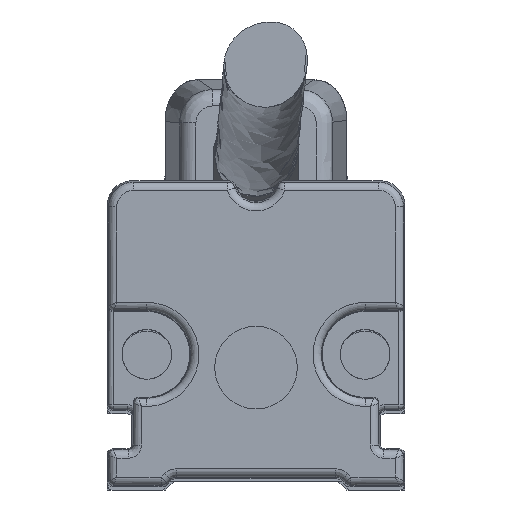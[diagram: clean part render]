
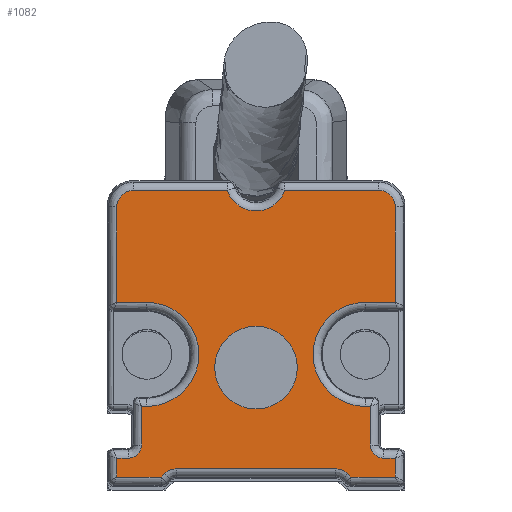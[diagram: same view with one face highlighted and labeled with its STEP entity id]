
A CAD part, front view. The second image highlights one B-rep face of the part: STEP entity #1082.
In plain terms, the highlighted planar face has unit normal (0, -1, 0).
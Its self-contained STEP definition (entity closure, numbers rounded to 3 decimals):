
#195=B_SPLINE_CURVE_WITH_KNOTS('',3,(#17121,#17122,#17123,#17124),
 .UNSPECIFIED.,.F.,.F.,(4,4),(0.,1.),.UNSPECIFIED.);
#196=B_SPLINE_CURVE_WITH_KNOTS('',3,(#17132,#17133,#17134,#17135),
 .UNSPECIFIED.,.F.,.F.,(4,4),(0.,1.),.UNSPECIFIED.);
#526=PLANE('',#10790);
#682=FACE_BOUND('',#2384,.T.);
#683=FACE_BOUND('',#2385,.T.);
#1082=ADVANCED_FACE('',(#682,#683),#526,.T.);
#2384=EDGE_LOOP('',(#6547));
#2385=EDGE_LOOP('',(#6548,#6549,#6550,#6551,#6552,#6553,#6554,#6555,#6556,
#6557,#6558,#6559,#6560,#6561,#6562,#6563,#6564,#6565,#6566,#6567,#6568,
#6569,#6570,#6571,#6572,#6573,#6574,#6575));
#2638=ELLIPSE('',#10785,0.8,0.8);
#2639=ELLIPSE('',#10786,1.,1.);
#2640=ELLIPSE('',#10787,1.,1.);
#2641=ELLIPSE('',#10788,0.8,0.8);
#3385=LINE('',#17118,#4260);
#3386=LINE('',#17126,#4261);
#3387=LINE('',#17130,#4262);
#3388=LINE('',#17137,#4263);
#3389=LINE('',#17139,#4264);
#3390=LINE('',#17143,#4265);
#3391=LINE('',#17145,#4266);
#3392=LINE('',#17149,#4267);
#3393=LINE('',#17151,#4268);
#3394=LINE('',#17153,#4269);
#3395=LINE('',#17155,#4270);
#3396=LINE('',#17159,#4271);
#3397=LINE('',#17163,#4272);
#3398=LINE('',#17165,#4273);
#3399=LINE('',#17167,#4274);
#3400=LINE('',#17169,#4275);
#3401=LINE('',#17173,#4276);
#3402=LINE('',#17175,#4277);
#3403=LINE('',#17179,#4278);
#4260=VECTOR('',#13202,1.);
#4261=VECTOR('',#13203,1.);
#4262=VECTOR('',#13206,1.);
#4263=VECTOR('',#13207,1.);
#4264=VECTOR('',#13208,1.);
#4265=VECTOR('',#13211,1.);
#4266=VECTOR('',#13212,1.);
#4267=VECTOR('',#13215,1.);
#4268=VECTOR('',#13216,1.);
#4269=VECTOR('',#13217,1.);
#4270=VECTOR('',#13218,1.);
#4271=VECTOR('',#13221,1.);
#4272=VECTOR('',#13224,1.);
#4273=VECTOR('',#13225,1.);
#4274=VECTOR('',#13226,1.);
#4275=VECTOR('',#13227,1.);
#4276=VECTOR('',#13230,1.);
#4277=VECTOR('',#13231,1.);
#4278=VECTOR('',#13234,1.);
#6547=ORIENTED_EDGE('',*,*,#9396,.F.);
#6548=ORIENTED_EDGE('',*,*,#9397,.T.);
#6549=ORIENTED_EDGE('',*,*,#9398,.T.);
#6550=ORIENTED_EDGE('',*,*,#9399,.T.);
#6551=ORIENTED_EDGE('',*,*,#9400,.T.);
#6552=ORIENTED_EDGE('',*,*,#9401,.T.);
#6553=ORIENTED_EDGE('',*,*,#9402,.T.);
#6554=ORIENTED_EDGE('',*,*,#9403,.T.);
#6555=ORIENTED_EDGE('',*,*,#9404,.T.);
#6556=ORIENTED_EDGE('',*,*,#9405,.T.);
#6557=ORIENTED_EDGE('',*,*,#9406,.T.);
#6558=ORIENTED_EDGE('',*,*,#9407,.T.);
#6559=ORIENTED_EDGE('',*,*,#9408,.T.);
#6560=ORIENTED_EDGE('',*,*,#9409,.T.);
#6561=ORIENTED_EDGE('',*,*,#9410,.T.);
#6562=ORIENTED_EDGE('',*,*,#9411,.T.);
#6563=ORIENTED_EDGE('',*,*,#9412,.T.);
#6564=ORIENTED_EDGE('',*,*,#9413,.T.);
#6565=ORIENTED_EDGE('',*,*,#9414,.T.);
#6566=ORIENTED_EDGE('',*,*,#9415,.T.);
#6567=ORIENTED_EDGE('',*,*,#9416,.T.);
#6568=ORIENTED_EDGE('',*,*,#9417,.T.);
#6569=ORIENTED_EDGE('',*,*,#9418,.T.);
#6570=ORIENTED_EDGE('',*,*,#9419,.T.);
#6571=ORIENTED_EDGE('',*,*,#9420,.T.);
#6572=ORIENTED_EDGE('',*,*,#9421,.T.);
#6573=ORIENTED_EDGE('',*,*,#9422,.T.);
#6574=ORIENTED_EDGE('',*,*,#9423,.T.);
#6575=ORIENTED_EDGE('',*,*,#9424,.T.);
#8110=VERTEX_POINT('',#17117);
#8111=VERTEX_POINT('',#17119);
#8112=VERTEX_POINT('',#17120);
#8113=VERTEX_POINT('',#17125);
#8114=VERTEX_POINT('',#17127);
#8115=VERTEX_POINT('',#17129);
#8116=VERTEX_POINT('',#17131);
#8117=VERTEX_POINT('',#17136);
#8118=VERTEX_POINT('',#17138);
#8119=VERTEX_POINT('',#17140);
#8120=VERTEX_POINT('',#17142);
#8121=VERTEX_POINT('',#17144);
#8122=VERTEX_POINT('',#17146);
#8123=VERTEX_POINT('',#17148);
#8124=VERTEX_POINT('',#17150);
#8125=VERTEX_POINT('',#17152);
#8126=VERTEX_POINT('',#17154);
#8127=VERTEX_POINT('',#17156);
#8128=VERTEX_POINT('',#17158);
#8129=VERTEX_POINT('',#17160);
#8130=VERTEX_POINT('',#17162);
#8131=VERTEX_POINT('',#17164);
#8132=VERTEX_POINT('',#17166);
#8133=VERTEX_POINT('',#17168);
#8134=VERTEX_POINT('',#17170);
#8135=VERTEX_POINT('',#17172);
#8136=VERTEX_POINT('',#17174);
#8137=VERTEX_POINT('',#17176);
#8138=VERTEX_POINT('',#17178);
#9396=EDGE_CURVE('',#8110,#8110,#9984,.T.);
#9397=EDGE_CURVE('',#8111,#8112,#3385,.T.);
#9398=EDGE_CURVE('',#8112,#8113,#195,.T.);
#9399=EDGE_CURVE('',#8113,#8114,#3386,.T.);
#9400=EDGE_CURVE('',#8114,#8115,#9985,.T.);
#9401=EDGE_CURVE('',#8115,#8116,#3387,.T.);
#9402=EDGE_CURVE('',#8116,#8117,#196,.T.);
#9403=EDGE_CURVE('',#8117,#8118,#3388,.T.);
#9404=EDGE_CURVE('',#8118,#8119,#3389,.T.);
#9405=EDGE_CURVE('',#8119,#8120,#9986,.T.);
#9406=EDGE_CURVE('',#8120,#8121,#3390,.T.);
#9407=EDGE_CURVE('',#8121,#8122,#3391,.T.);
#9408=EDGE_CURVE('',#8122,#8123,#2638,.T.);
#9409=EDGE_CURVE('',#8123,#8124,#3392,.T.);
#9410=EDGE_CURVE('',#8124,#8125,#3393,.T.);
#9411=EDGE_CURVE('',#8125,#8126,#3394,.T.);
#9412=EDGE_CURVE('',#8126,#8127,#3395,.T.);
#9413=EDGE_CURVE('',#8127,#8128,#2639,.T.);
#9414=EDGE_CURVE('',#8128,#8129,#3396,.T.);
#9415=EDGE_CURVE('',#8129,#8130,#2640,.T.);
#9416=EDGE_CURVE('',#8130,#8131,#3397,.T.);
#9417=EDGE_CURVE('',#8131,#8132,#3398,.T.);
#9418=EDGE_CURVE('',#8132,#8133,#3399,.T.);
#9419=EDGE_CURVE('',#8133,#8134,#3400,.T.);
#9420=EDGE_CURVE('',#8134,#8135,#2641,.T.);
#9421=EDGE_CURVE('',#8135,#8136,#3401,.T.);
#9422=EDGE_CURVE('',#8136,#8137,#3402,.T.);
#9423=EDGE_CURVE('',#8137,#8138,#9987,.T.);
#9424=EDGE_CURVE('',#8138,#8111,#3403,.T.);
#9984=CIRCLE('',#10782,2.5);
#9985=CIRCLE('',#10783,1.829);
#9986=CIRCLE('',#10784,3.148);
#9987=CIRCLE('',#10789,3.148);
#10782=AXIS2_PLACEMENT_3D('',#17116,#13200,#13201);
#10783=AXIS2_PLACEMENT_3D('',#17128,#13204,#13205);
#10784=AXIS2_PLACEMENT_3D('',#17141,#13209,#13210);
#10785=AXIS2_PLACEMENT_3D('',#17147,#13213,#13214);
#10786=AXIS2_PLACEMENT_3D('',#17157,#13219,#13220);
#10787=AXIS2_PLACEMENT_3D('',#17161,#13222,#13223);
#10788=AXIS2_PLACEMENT_3D('',#17171,#13228,#13229);
#10789=AXIS2_PLACEMENT_3D('',#17177,#13232,#13233);
#10790=AXIS2_PLACEMENT_3D('',#17180,#13235,#13236);
#13200=DIRECTION('',(0.,-1.,0.));
#13201=DIRECTION('',(0.,0.,-1.));
#13202=DIRECTION('',(0.,0.,1.));
#13203=DIRECTION('',(-1.,0.,0.));
#13204=DIRECTION('',(0.,1.,0.));
#13205=DIRECTION('',(0.,0.,-1.));
#13206=DIRECTION('',(-1.,0.,0.));
#13207=DIRECTION('',(0.,0.,-1.));
#13208=DIRECTION('',(1.,0.,0.));
#13209=DIRECTION('',(0.,1.,0.));
#13210=DIRECTION('',(0.,0.,-1.));
#13211=DIRECTION('',(-1.,0.,0.));
#13212=DIRECTION('',(0.,0.,-1.));
#13213=DIRECTION('',(0.,1.,0.));
#13214=DIRECTION('',(-0.707,0.,0.707));
#13215=DIRECTION('',(-1.,0.,0.));
#13216=DIRECTION('',(0.,0.,-1.));
#13217=DIRECTION('',(1.,0.,0.));
#13218=DIRECTION('',(0.707,0.,0.707));
#13219=DIRECTION('',(0.,1.,0.));
#13220=DIRECTION('',(0.383,0.,-0.924));
#13221=DIRECTION('',(1.,0.,0.));
#13222=DIRECTION('',(0.,1.,0.));
#13223=DIRECTION('',(-0.383,0.,-0.924));
#13224=DIRECTION('',(0.707,0.,-0.707));
#13225=DIRECTION('',(1.,0.,0.));
#13226=DIRECTION('',(0.,0.,1.));
#13227=DIRECTION('',(-1.,0.,0.));
#13228=DIRECTION('',(0.,1.,0.));
#13229=DIRECTION('',(0.707,0.,0.707));
#13230=DIRECTION('',(0.,0.,1.));
#13231=DIRECTION('',(-1.,0.,0.));
#13232=DIRECTION('',(0.,1.,0.));
#13233=DIRECTION('',(0.,0.,-1.));
#13234=DIRECTION('',(1.,0.,0.));
#13235=DIRECTION('',(0.,-1.,0.));
#13236=DIRECTION('',(1.,0.,0.));
#17116=CARTESIAN_POINT('',(0.,-50.,106.9));
#17117=CARTESIAN_POINT('',(0.,-50.,104.4));
#17118=CARTESIAN_POINT('',(8.421,-50.,116.95));
#17119=CARTESIAN_POINT('',(8.421,-50.,110.848));
#17120=CARTESIAN_POINT('',(8.421,-50.,116.622));
#17121=CARTESIAN_POINT('',(8.421,-50.,116.622));
#17122=CARTESIAN_POINT('',(8.421,-50.,117.151));
#17123=CARTESIAN_POINT('',(7.953,-50.,117.621));
#17124=CARTESIAN_POINT('',(7.421,-50.,117.621));
#17125=CARTESIAN_POINT('',(7.421,-50.,117.621));
#17126=CARTESIAN_POINT('',(7.75,-50.,117.621));
#17127=CARTESIAN_POINT('',(1.735,-50.,117.621));
#17128=CARTESIAN_POINT('',(0.,-50.,118.2));
#17129=CARTESIAN_POINT('',(-1.735,-50.,117.621));
#17130=CARTESIAN_POINT('',(7.75,-50.,117.621));
#17131=CARTESIAN_POINT('',(-7.422,-50.,117.621));
#17132=CARTESIAN_POINT('',(-7.422,-50.,117.621));
#17133=CARTESIAN_POINT('',(-7.951,-50.,117.621));
#17134=CARTESIAN_POINT('',(-8.421,-50.,117.153));
#17135=CARTESIAN_POINT('',(-8.421,-50.,116.622));
#17136=CARTESIAN_POINT('',(-8.421,-50.,116.622));
#17137=CARTESIAN_POINT('',(-8.421,-50.,116.95));
#17138=CARTESIAN_POINT('',(-8.421,-50.,110.848));
#17139=CARTESIAN_POINT('',(-6.6,-50.,110.848));
#17140=CARTESIAN_POINT('',(-6.6,-50.,110.848));
#17141=CARTESIAN_POINT('',(-6.6,-50.,107.7));
#17142=CARTESIAN_POINT('',(-6.6,-50.,104.552));
#17143=CARTESIAN_POINT('',(-7.113,-50.,104.552));
#17144=CARTESIAN_POINT('',(-6.921,-50.,104.552));
#17145=CARTESIAN_POINT('',(-6.921,-50.,116.95));
#17146=CARTESIAN_POINT('',(-6.921,-50.,102.221));
#17147=CARTESIAN_POINT('',(-7.722,-50.,102.221));
#17148=CARTESIAN_POINT('',(-7.721,-50.,101.421));
#17149=CARTESIAN_POINT('',(7.75,-50.,101.421));
#17150=CARTESIAN_POINT('',(-8.421,-50.,101.421));
#17151=CARTESIAN_POINT('',(-8.421,-50.,116.95));
#17152=CARTESIAN_POINT('',(-8.421,-50.,100.279));
#17153=CARTESIAN_POINT('',(7.75,-50.,100.279));
#17154=CARTESIAN_POINT('',(-5.74,-50.,100.279));
#17155=CARTESIAN_POINT('',(9.341,-50.,115.359));
#17156=CARTESIAN_POINT('',(-5.533,-50.,100.486));
#17157=CARTESIAN_POINT('',(-4.825,-50.,99.778));
#17158=CARTESIAN_POINT('',(-4.826,-50.,100.779));
#17159=CARTESIAN_POINT('',(7.75,-50.,100.779));
#17160=CARTESIAN_POINT('',(4.828,-50.,100.779));
#17161=CARTESIAN_POINT('',(4.828,-50.,99.778));
#17162=CARTESIAN_POINT('',(5.535,-50.,100.486));
#17163=CARTESIAN_POINT('',(-1.59,-50.,107.61));
#17164=CARTESIAN_POINT('',(5.742,-50.,100.279));
#17165=CARTESIAN_POINT('',(7.75,-50.,100.279));
#17166=CARTESIAN_POINT('',(8.421,-50.,100.279));
#17167=CARTESIAN_POINT('',(8.421,-50.,116.95));
#17168=CARTESIAN_POINT('',(8.421,-50.,101.421));
#17169=CARTESIAN_POINT('',(7.75,-50.,101.421));
#17170=CARTESIAN_POINT('',(7.721,-50.,101.421));
#17171=CARTESIAN_POINT('',(7.721,-50.,102.221));
#17172=CARTESIAN_POINT('',(6.921,-50.,102.221));
#17173=CARTESIAN_POINT('',(6.921,-50.,116.95));
#17174=CARTESIAN_POINT('',(6.921,-50.,104.552));
#17175=CARTESIAN_POINT('',(6.6,-50.,104.552));
#17176=CARTESIAN_POINT('',(6.6,-50.,104.552));
#17177=CARTESIAN_POINT('',(6.6,-50.,107.7));
#17178=CARTESIAN_POINT('',(6.6,-50.,110.848));
#17179=CARTESIAN_POINT('',(8.613,-50.,110.848));
#17180=CARTESIAN_POINT('',(7.75,-50.,116.95));
